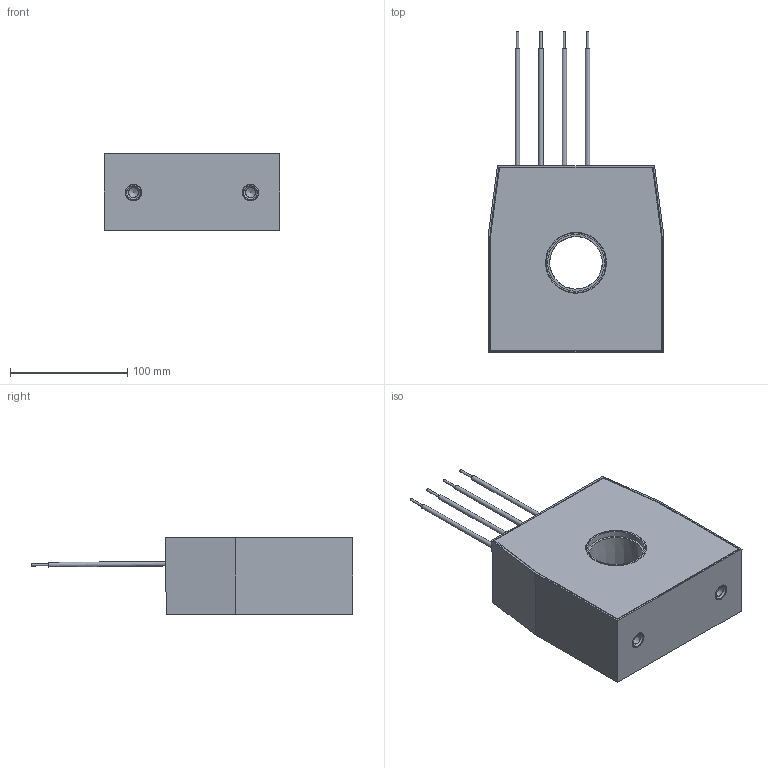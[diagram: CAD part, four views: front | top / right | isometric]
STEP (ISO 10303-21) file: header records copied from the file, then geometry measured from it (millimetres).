
FILE_DESCRIPTION(('STEP AP203'), '1');
FILE_NAME('ÒØÏ-ÍÒÇ-0,66-61Ñ (45 ìì, 1-é ãàáàðèò)', '2025-08-27T09:22:25', ('UNSPECIFIED'), ('UNSPECIFIED'), 'ASCON STEP Converter 1.3', 'ASCON Math Kernel', '');
FILE_SCHEMA(('CONFIG_CONTROL_DESIGN'));
Length unit declared in the file: millimetre
Assembly tree (9 placements, depth 2):
  (unnamed)
    (unnamed)
    (unnamed)
    (unnamed)  x2
    (unnamed)
    (unnamed)  x4
Bounding box: 150 x 274.81 x 65 mm (x, y, z)
Volume: 339411.8 mm3; surface area: 196044 mm2
Topology: 9 solids, 9 shells, 117 faces, 229 edges, 148 vertices
Faces by surface type: plane 68, cylinder 34, cone 11, torus 4
Full cylindrical faces by diameter (mm): 2 x4, 3.5 x1, 3.9 x4, 4 x4, 8.376 x2, 14 x4, 17 x2, 45 x1, 48.599 x2, 48.6 x1, 51 x1, 55.05 x1, 58.6 x1, 65.05 x1, 68.6 x1
Entity records: 3428 total; most frequent: DIRECTION 410, CARTESIAN_POINT 406, ORIENTED_EDGE 318, EDGE_CURVE 159, AXIS2_PLACEMENT_3D 155, EDGE_LOOP 146, VERTEX_POINT 123, LINE 100
